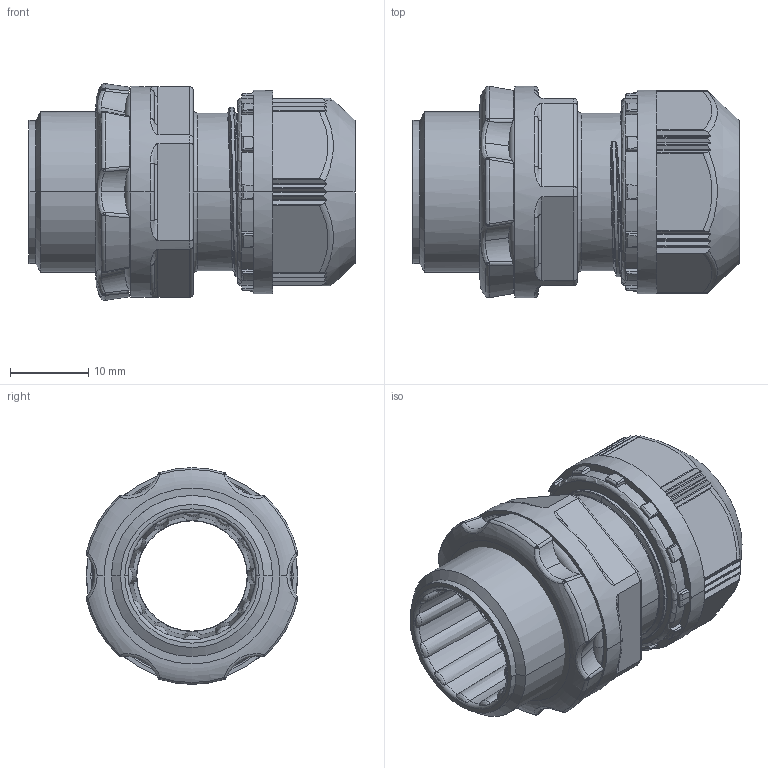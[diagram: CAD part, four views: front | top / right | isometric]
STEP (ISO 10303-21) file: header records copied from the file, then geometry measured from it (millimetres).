
FILE_DESCRIPTION(('CoCreate Modeling STEP Export'),'2;1');
FILE_NAME('H03-0030-CL931_OA-W1614-13L.stp','2011-08-05T10:26:38',(''),(''),'CoCreate Modeling STEP processor for AP214 (Solid Model)','CoCreate Modeling 17.00A 17-Jun-2010 (C) Parametric Technology GmbH','');
FILE_SCHEMA(('AUTOMOTIVE_DESIGN { 1 0 10303 214 1 1 1 1 }'));
Length unit declared in the file: millimetre
Products named in the file (5): OA-W1614-13L; ゴムブッシュ; ロックナット
Assembly tree (2 placements, depth 2):
  OA-W1614-13L
    OA-W1614-13L
  ゴムブッシュ
  ロックナット
    ロックナット
Bounding box: 41.7 x 27.07 x 27.72 mm (x, y, z)
Volume: 11195.1 mm3; surface area: 9695.2 mm2
Topology: 3 solids, 3 shells, 519 faces, 1373 edges, 870 vertices
Faces by surface type: cylinder 162, plane 154, bspline 99, torus 52, cone 40, extrusion 12
Entity records: 40025 total; most frequent: CARTESIAN_POINT 29224, ORIENTED_EDGE 2746, DIRECTION 1393, EDGE_CURVE 1373, VERTEX_POINT 870, B_SPLINE_CURVE_WITH_KNOTS 555, EDGE_LOOP 535, FACE_OUTER_BOUND 519
